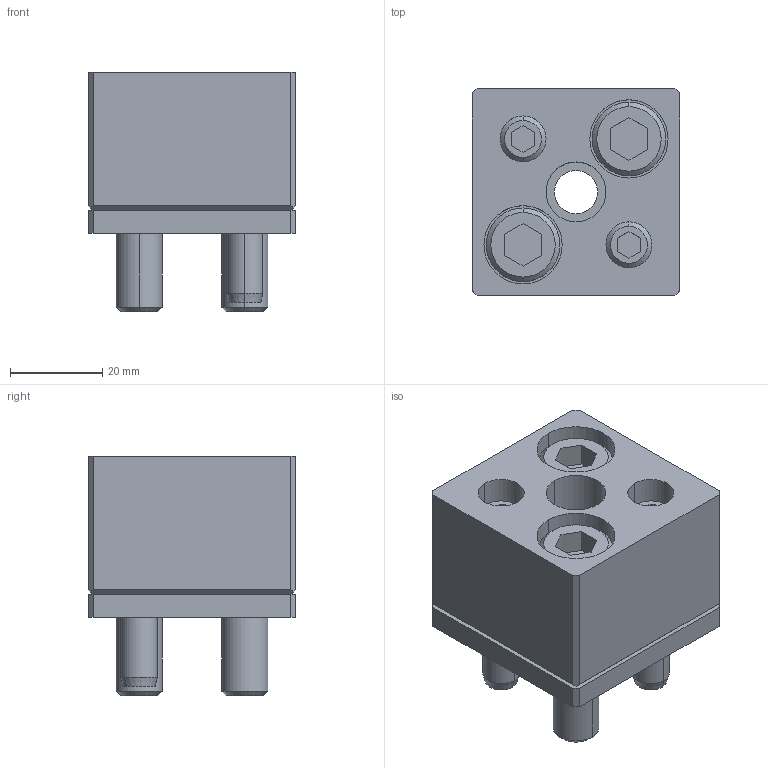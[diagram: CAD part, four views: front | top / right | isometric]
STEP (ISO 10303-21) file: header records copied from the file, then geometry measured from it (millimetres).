
FILE_DESCRIPTION(/* description */ (''),/* implementation_level */ '2;1');
FILE_NAME(/* name */ '3d_sr-ad13_02892_r00.stp',/* time_stamp */ '2011-01-10T14:10:01+09:00',/* author */ ('MISUMI'),/* organization */ (''),/* preprocessor_version */ 'ST-DEVELOPER v11',/* originating_system */ 'UGS - NX 5.0',/* authorisation */ '');
FILE_SCHEMA (('CONFIG_CONTROL_DESIGN'));
Length unit declared in the file: millimetre
Products named in the file (1): 3d_sr-ad13_02892_r00
Bounding box: 45 x 45 x 52 mm (x, y, z)
Volume: 68270.5 mm3; surface area: 25423.7 mm2
Topology: 8 solids, 8 shells, 155 faces, 346 edges, 222 vertices
Faces by surface type: plane 77, cylinder 52, cone 26
Entity records: 4440 total; most frequent: DIRECTION 784, CARTESIAN_POINT 766, ORIENTED_EDGE 692, EDGE_CURVE 346, AXIS2_PLACEMENT_3D 286, VERTEX_POINT 222, LINE 212, VECTOR 212
